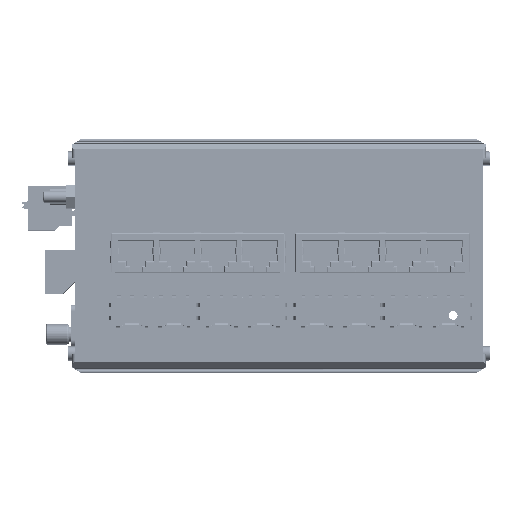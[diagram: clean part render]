
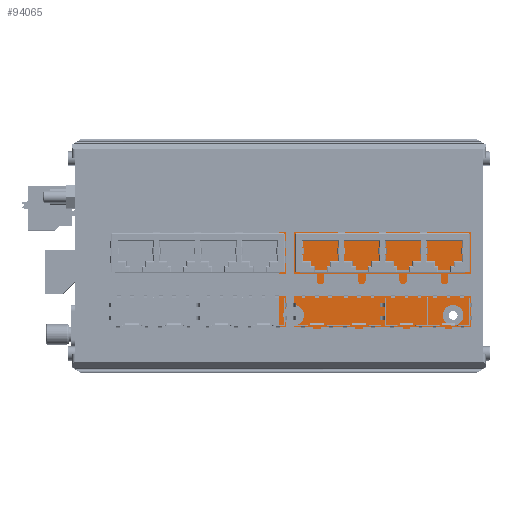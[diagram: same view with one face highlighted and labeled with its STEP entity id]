
A CAD part, top view. The second image highlights one B-rep face of the part: STEP entity #94065.
In plain terms, the highlighted planar face has unit normal (0, 0, 1).
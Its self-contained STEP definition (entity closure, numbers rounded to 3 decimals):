
#93336=CARTESIAN_POINT('',(67.8,-58.6,-53.8));
#93337=VERTEX_POINT('',#93336);
#93345=CARTESIAN_POINT('',(0.05,-58.6,-53.8));
#93346=VERTEX_POINT('',#93345);
#93347=CARTESIAN_POINT('',(0.05,-58.6,-53.8));
#93348=DIRECTION('',(1.,-0.,-0.));
#93349=VECTOR('',#93348,67.75);
#93350=LINE('',#93347,#93349);
#93351=EDGE_CURVE('',#93346,#93337,#93350,.T.);
#93646=CARTESIAN_POINT('',(0.05,7.6,-53.8));
#93647=VERTEX_POINT('',#93646);
#93654=CARTESIAN_POINT('',(67.8,7.6,-53.8));
#93655=VERTEX_POINT('',#93654);
#93656=CARTESIAN_POINT('',(67.8,7.6,-53.8));
#93657=DIRECTION('',(-1.,0.,0.));
#93658=VECTOR('',#93657,67.75);
#93659=LINE('',#93656,#93658);
#93660=EDGE_CURVE('',#93655,#93647,#93659,.T.);
#93878=CARTESIAN_POINT('',(0.05,7.6,-53.8));
#93879=DIRECTION('',(0.,-1.,0.));
#93880=VECTOR('',#93879,66.2);
#93881=LINE('',#93878,#93880);
#93882=EDGE_CURVE('',#93647,#93346,#93881,.T.);
#93889=CARTESIAN_POINT('',(69.,-58.6,-53.8));
#93890=DIRECTION('',(0.,0.,-1.));
#93891=DIRECTION('',(0.,-1.,0.));
#93892=AXIS2_PLACEMENT_3D('',#93889,#93890,#93891);
#93893=PLANE('',#93892);
#93894=CARTESIAN_POINT('',(67.8,-58.6,-53.8));
#93895=DIRECTION('',(-0.,1.,-0.));
#93896=VECTOR('',#93895,66.2);
#93897=LINE('',#93894,#93896);
#93898=EDGE_CURVE('',#93337,#93655,#93897,.T.);
#93899=ORIENTED_EDGE('',*,*,#93898,.T.);
#93900=ORIENTED_EDGE('',*,*,#93660,.T.);
#93901=ORIENTED_EDGE('',*,*,#93882,.T.);
#93902=ORIENTED_EDGE('',*,*,#93351,.T.);
#93903=EDGE_LOOP('',(#93899,#93900,#93901,#93902));
#93904=FACE_BOUND('',#93903,.T.);
#93905=CARTESIAN_POINT('',(55.,-54.5,-53.8));
#93906=VERTEX_POINT('',#93905);
#93907=CARTESIAN_POINT('',(53.5,-53.,-53.8));
#93908=VERTEX_POINT('',#93907);
#93909=CARTESIAN_POINT('',(55.,-53.,-53.8));
#93910=DIRECTION('',(-0.,-0.,1.));
#93911=DIRECTION('',(-1.,0.,0.));
#93912=AXIS2_PLACEMENT_3D('',#93909,#93910,#93911);
#93913=CIRCLE('',#93912,1.5);
#93914=EDGE_CURVE('',#93906,#93908,#93913,.T.);
#93915=ORIENTED_EDGE('',*,*,#93914,.F.);
#93916=CARTESIAN_POINT('',(55.,-53.,-53.8));
#93917=DIRECTION('',(-0.,-0.,1.));
#93918=DIRECTION('',(-1.,0.,0.));
#93919=AXIS2_PLACEMENT_3D('',#93916,#93917,#93918);
#93920=CIRCLE('',#93919,1.5);
#93921=EDGE_CURVE('',#93908,#93906,#93920,.T.);
#93922=ORIENTED_EDGE('',*,*,#93921,.F.);
#93923=EDGE_LOOP('',(#93915,#93922));
#93924=FACE_BOUND('',#93923,.T.);
#93925=CARTESIAN_POINT('',(55.,0.5,-53.8));
#93926=VERTEX_POINT('',#93925);
#93927=CARTESIAN_POINT('',(53.5,2.,-53.8));
#93928=VERTEX_POINT('',#93927);
#93929=CARTESIAN_POINT('',(55.,2.,-53.8));
#93930=DIRECTION('',(-0.,-0.,1.));
#93931=DIRECTION('',(-1.,0.,0.));
#93932=AXIS2_PLACEMENT_3D('',#93929,#93930,#93931);
#93933=CIRCLE('',#93932,1.5);
#93934=EDGE_CURVE('',#93926,#93928,#93933,.T.);
#93935=ORIENTED_EDGE('',*,*,#93934,.F.);
#93936=CARTESIAN_POINT('',(55.,2.,-53.8));
#93937=DIRECTION('',(-0.,-0.,1.));
#93938=DIRECTION('',(-1.,0.,0.));
#93939=AXIS2_PLACEMENT_3D('',#93936,#93937,#93938);
#93940=CIRCLE('',#93939,1.5);
#93941=EDGE_CURVE('',#93928,#93926,#93940,.T.);
#93942=ORIENTED_EDGE('',*,*,#93941,.F.);
#93943=EDGE_LOOP('',(#93935,#93942));
#93944=FACE_BOUND('',#93943,.T.);
#93945=CARTESIAN_POINT('',(5.,0.5,-53.8));
#93946=VERTEX_POINT('',#93945);
#93947=CARTESIAN_POINT('',(3.5,2.,-53.8));
#93948=VERTEX_POINT('',#93947);
#93949=CARTESIAN_POINT('',(5.,2.,-53.8));
#93950=DIRECTION('',(-0.,-0.,1.));
#93951=DIRECTION('',(-1.,0.,0.));
#93952=AXIS2_PLACEMENT_3D('',#93949,#93950,#93951);
#93953=CIRCLE('',#93952,1.5);
#93954=EDGE_CURVE('',#93946,#93948,#93953,.T.);
#93955=ORIENTED_EDGE('',*,*,#93954,.F.);
#93956=CARTESIAN_POINT('',(5.,2.,-53.8));
#93957=DIRECTION('',(-0.,-0.,1.));
#93958=DIRECTION('',(-1.,0.,0.));
#93959=AXIS2_PLACEMENT_3D('',#93956,#93957,#93958);
#93960=CIRCLE('',#93959,1.5);
#93961=EDGE_CURVE('',#93948,#93946,#93960,.T.);
#93962=ORIENTED_EDGE('',*,*,#93961,.F.);
#93963=EDGE_LOOP('',(#93955,#93962));
#93964=FACE_BOUND('',#93963,.T.);
#93965=CARTESIAN_POINT('',(5.,-54.5,-53.8));
#93966=VERTEX_POINT('',#93965);
#93967=CARTESIAN_POINT('',(3.5,-53.,-53.8));
#93968=VERTEX_POINT('',#93967);
#93969=CARTESIAN_POINT('',(5.,-53.,-53.8));
#93970=DIRECTION('',(-0.,-0.,1.));
#93971=DIRECTION('',(-1.,0.,0.));
#93972=AXIS2_PLACEMENT_3D('',#93969,#93970,#93971);
#93973=CIRCLE('',#93972,1.5);
#93974=EDGE_CURVE('',#93966,#93968,#93973,.T.);
#93975=ORIENTED_EDGE('',*,*,#93974,.F.);
#93976=CARTESIAN_POINT('',(5.,-53.,-53.8));
#93977=DIRECTION('',(-0.,-0.,1.));
#93978=DIRECTION('',(-1.,0.,0.));
#93979=AXIS2_PLACEMENT_3D('',#93976,#93977,#93978);
#93980=CIRCLE('',#93979,1.5);
#93981=EDGE_CURVE('',#93968,#93966,#93980,.T.);
#93982=ORIENTED_EDGE('',*,*,#93981,.F.);
#93983=EDGE_LOOP('',(#93975,#93982));
#93984=FACE_BOUND('',#93983,.T.);
#93985=CARTESIAN_POINT('',(59.,-47.25,-53.8));
#93986=VERTEX_POINT('',#93985);
#93987=CARTESIAN_POINT('',(57.25,-45.5,-53.8));
#93988=VERTEX_POINT('',#93987);
#93989=CARTESIAN_POINT('',(59.,-45.5,-53.8));
#93990=DIRECTION('',(-0.,-0.,1.));
#93991=DIRECTION('',(-1.,0.,0.));
#93992=AXIS2_PLACEMENT_3D('',#93989,#93990,#93991);
#93993=CIRCLE('',#93992,1.75);
#93994=EDGE_CURVE('',#93986,#93988,#93993,.T.);
#93995=ORIENTED_EDGE('',*,*,#93994,.F.);
#93996=CARTESIAN_POINT('',(59.,-45.5,-53.8));
#93997=DIRECTION('',(-0.,-0.,1.));
#93998=DIRECTION('',(-1.,0.,0.));
#93999=AXIS2_PLACEMENT_3D('',#93996,#93997,#93998);
#94000=CIRCLE('',#93999,1.75);
#94001=EDGE_CURVE('',#93988,#93986,#94000,.T.);
#94002=ORIENTED_EDGE('',*,*,#94001,.F.);
#94003=EDGE_LOOP('',(#93995,#94002));
#94004=FACE_BOUND('',#94003,.T.);
#94005=CARTESIAN_POINT('',(59.,-7.25,-53.8));
#94006=VERTEX_POINT('',#94005);
#94007=CARTESIAN_POINT('',(57.25,-5.5,-53.8));
#94008=VERTEX_POINT('',#94007);
#94009=CARTESIAN_POINT('',(59.,-5.5,-53.8));
#94010=DIRECTION('',(-0.,-0.,1.));
#94011=DIRECTION('',(-1.,0.,0.));
#94012=AXIS2_PLACEMENT_3D('',#94009,#94010,#94011);
#94013=CIRCLE('',#94012,1.75);
#94014=EDGE_CURVE('',#94006,#94008,#94013,.T.);
#94015=ORIENTED_EDGE('',*,*,#94014,.F.);
#94016=CARTESIAN_POINT('',(59.,-5.5,-53.8));
#94017=DIRECTION('',(-0.,-0.,1.));
#94018=DIRECTION('',(-1.,0.,0.));
#94019=AXIS2_PLACEMENT_3D('',#94016,#94017,#94018);
#94020=CIRCLE('',#94019,1.75);
#94021=EDGE_CURVE('',#94008,#94006,#94020,.T.);
#94022=ORIENTED_EDGE('',*,*,#94021,.F.);
#94023=EDGE_LOOP('',(#94015,#94022));
#94024=FACE_BOUND('',#94023,.T.);
#94025=CARTESIAN_POINT('',(5.,-47.25,-53.8));
#94026=VERTEX_POINT('',#94025);
#94027=CARTESIAN_POINT('',(3.25,-45.5,-53.8));
#94028=VERTEX_POINT('',#94027);
#94029=CARTESIAN_POINT('',(5.,-45.5,-53.8));
#94030=DIRECTION('',(-0.,-0.,1.));
#94031=DIRECTION('',(-1.,0.,0.));
#94032=AXIS2_PLACEMENT_3D('',#94029,#94030,#94031);
#94033=CIRCLE('',#94032,1.75);
#94034=EDGE_CURVE('',#94026,#94028,#94033,.T.);
#94035=ORIENTED_EDGE('',*,*,#94034,.F.);
#94036=CARTESIAN_POINT('',(5.,-45.5,-53.8));
#94037=DIRECTION('',(-0.,-0.,1.));
#94038=DIRECTION('',(-1.,0.,0.));
#94039=AXIS2_PLACEMENT_3D('',#94036,#94037,#94038);
#94040=CIRCLE('',#94039,1.75);
#94041=EDGE_CURVE('',#94028,#94026,#94040,.T.);
#94042=ORIENTED_EDGE('',*,*,#94041,.F.);
#94043=EDGE_LOOP('',(#94035,#94042));
#94044=FACE_BOUND('',#94043,.T.);
#94045=CARTESIAN_POINT('',(5.,-7.25,-53.8));
#94046=VERTEX_POINT('',#94045);
#94047=CARTESIAN_POINT('',(3.25,-5.5,-53.8));
#94048=VERTEX_POINT('',#94047);
#94049=CARTESIAN_POINT('',(5.,-5.5,-53.8));
#94050=DIRECTION('',(-0.,-0.,1.));
#94051=DIRECTION('',(-1.,0.,0.));
#94052=AXIS2_PLACEMENT_3D('',#94049,#94050,#94051);
#94053=CIRCLE('',#94052,1.75);
#94054=EDGE_CURVE('',#94046,#94048,#94053,.T.);
#94055=ORIENTED_EDGE('',*,*,#94054,.F.);
#94056=CARTESIAN_POINT('',(5.,-5.5,-53.8));
#94057=DIRECTION('',(-0.,-0.,1.));
#94058=DIRECTION('',(-1.,0.,0.));
#94059=AXIS2_PLACEMENT_3D('',#94056,#94057,#94058);
#94060=CIRCLE('',#94059,1.75);
#94061=EDGE_CURVE('',#94048,#94046,#94060,.T.);
#94062=ORIENTED_EDGE('',*,*,#94061,.F.);
#94063=EDGE_LOOP('',(#94055,#94062));
#94064=FACE_BOUND('',#94063,.T.);
#94065=ADVANCED_FACE('',(#93904,#93924,#93944,#93964,#93984,#94004,#94024,#94044,#94064),#93893,.F.);
